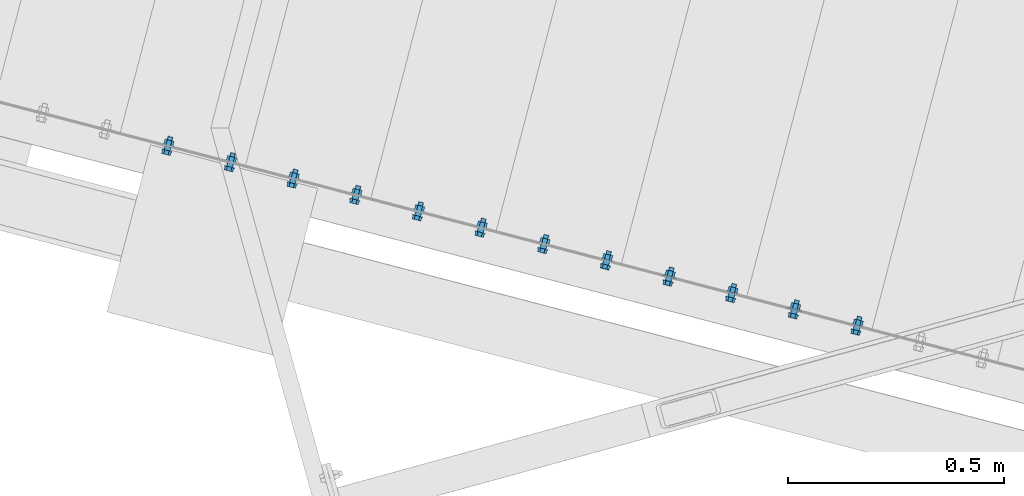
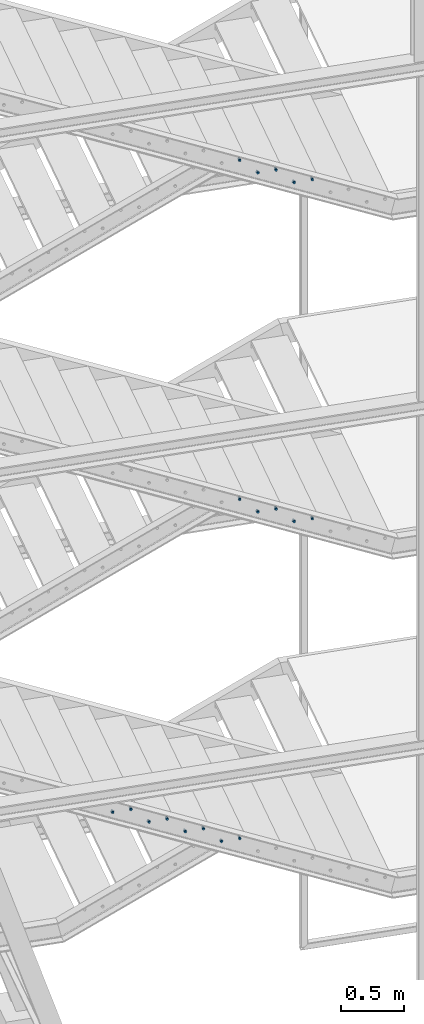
# One storey, part 137 of 169: 18 mechanical fasteners, 10 elements without a shape of their own.
"""IFC2X3 building model written with IfcOpenShell, lengths in millimetres."""

from ifc_helpers import new_model, si_unit, frame, frame_2d, origin_with_axes, origin_2d_with_axis, place, context, subcontext, project, spatial, polyline, circle_curve, parameter, trimmed, segment, composite_curve, circle, outline, extrude, source, transform, mapped, material, type_object, element, aggregate, save


model = new_model("IFC2X3")

# Units and contexts
model_context = context("Model", 3, precision=1e-05, world=origin_with_axes())
body_context = subcontext(model_context, "Body", "Model", "MODEL_VIEW")
ifc_project = project(units=[si_unit("LENGTHUNIT", "METRE", prefix="MILLI"), si_unit("AREAUNIT", "SQUARE_METRE"), si_unit("VOLUMEUNIT", "CUBIC_METRE"), si_unit("MASSUNIT", "GRAM", prefix="KILO"), si_unit("TIMEUNIT", "SECOND"), si_unit("PLANEANGLEUNIT", "RADIAN"), si_unit("SOLIDANGLEUNIT", "STERADIAN"), si_unit("THERMODYNAMICTEMPERATUREUNIT", "DEGREE_CELSIUS"), si_unit("LUMINOUSINTENSITYUNIT", "LUMEN")], contexts=[model_context])

# Site, building, storey
site_placement = place(None, origin_with_axes())
site = spatial("IfcSite", under=ifc_project, at=site_placement, Name="Undefined", CompositionType="ELEMENT")
building_placement = place(site_placement, origin_with_axes())
building = spatial("IfcBuilding", under=site, at=building_placement, Name="Undefined", CompositionType="ELEMENT")
storey_placement = place(building_placement, origin_with_axes())
storey = spatial("IfcBuildingStorey", under=building, at=storey_placement, Name="Undefined", CompositionType="ELEMENT", Elevation=0.0)

# Assembly, mechanical fastener
assembly_1_placement = place(storey_placement, origin_with_axes())
assembly_1 = element("IfcElementAssembly", 1, at=assembly_1_placement, inside=storey, Name="Steel Assembly", AssemblyPlace="NOTDEFINED", PredefinedType="RIGID_FRAME")
ifc_material = material(Name="Undefined")
discrete_accessory_type = type_object("IfcDiscreteAccessoryType", Name="Bolt assembly")
shared_shape_1 = source(origin_with_axes(), body_context, "Body", "SweptSolid", [
    extrude(circle(Radius=7.5, at=origin_2d_with_axis()), frame((0.0, -8.39999975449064, 0.0), z_axis=(0.0, 1.0, 0.0), x_axis=(1.0, 0.0, 0.0)), (0.0, 0.0, 1.0), 8.5),
    extrude(circle(Radius=7.5, at=origin_2d_with_axis()), frame((0.0, -0.100000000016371, 0.0), z_axis=(0.0, 1.0, 0.0), x_axis=(1.0, 0.0, 0.0)), (0.0, 0.0, 1.0), 3.1),
    extrude(outline(polyline([(10.39230484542, 0.0), (5.19615242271, 9.00000000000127), (-5.19615242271, 9.00000000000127), (-10.39230484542, 0.0), (-5.19615242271, -9.00000000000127), (5.19615242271, -9.00000000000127), (10.39230484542, 0.0)])), frame((0.0, -18.4999993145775, 0.0), z_axis=(0.0, 1.0, 0.0), x_axis=(1.0, 0.0, 0.0)), (0.0, 0.0, 1.0), 7.5),
    extrude(circle(Radius=6.0, at=origin_2d_with_axis()), frame((0.0, -10.9999999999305, 0.0), z_axis=(0.0, 1.0, 0.0), x_axis=(1.0, 0.0, 0.0)), (0.0, 0.0, 1.0), 35.0),
    extrude(circle(Radius=12.0, at=origin_2d_with_axis()), frame((0.0, -10.9999999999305, 0.0), z_axis=(0.0, 1.0, 0.0), x_axis=(1.0, 0.0, 0.0)), (0.0, 0.0, 1.0), 2.5),
    extrude(circle(Radius=12.0, at=origin_2d_with_axis()), frame((0.0, 2.99999999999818, 0.0), z_axis=(0.0, 1.0, 0.0), x_axis=(1.0, 0.0, 0.0)), (0.0, 0.0, 1.0), 2.5),
    extrude(outline(polyline([(10.96965511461, 0.0), (5.484827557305, 9.50000000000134), (-5.484827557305, 9.50000000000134), (-10.96965511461, 0.0), (-5.484827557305, -9.50000000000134), (5.484827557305, -9.50000000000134), (10.96965511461, 0.0)])), frame((0.0, 5.50000000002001, 0.0), z_axis=(0.0, 1.0, 0.0), x_axis=(1.0, 0.0, 0.0)), (0.0, 0.0, 1.0), 10.0),
])
mechanical_fastener_1_placement = place(assembly_1_placement, frame((-26304.5177435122, 5282.78361896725, 11300.321582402), z_axis=(-2.54700353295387e-10, 0.0, -1.0), x_axis=(-0.967546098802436, 0.252694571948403, 0.0)))
mechanical_fastener_1 = element("IfcMechanicalFastener", 2, at=mechanical_fastener_1_placement, type_object=discrete_accessory_type, material=ifc_material, Name="Bolt assembly", NominalDiameter=12.0, NominalLength=35.0, context=body_context, shape_type="MappedRepresentation", body=[
    mapped(shared_shape_1, transform((35.0000000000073, -1.23691279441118e-10, 25.0))),
])
aggregate(assembly_1, [mechanical_fastener_1])

assembly_2_placement = place(storey_placement, origin_with_axes())
assembly_2 = element("IfcElementAssembly", 3, at=assembly_2_placement, inside=storey, Name="Steel Assembly", AssemblyPlace="NOTDEFINED", PredefinedType="RIGID_FRAME")
mechanical_fastener_2_placement = place(assembly_2_placement, frame((-26014.2539104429, 5206.9752466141, 11150.3215824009), z_axis=(-2.54700353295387e-10, 0.0, -1.0), x_axis=(-0.967546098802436, 0.252694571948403, 0.0)))
mechanical_fastener_2 = element("IfcMechanicalFastener", 4, at=mechanical_fastener_2_placement, type_object=discrete_accessory_type, material=ifc_material, Name="Bolt assembly", NominalDiameter=12.0, NominalLength=35.0, context=body_context, shape_type="MappedRepresentation", body=[
    mapped(shared_shape_1, transform((35.0000000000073, -1.23691279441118e-10, 25.0))),
])

assembly_3_placement = place(storey_placement, origin_with_axes())
assembly_3 = element("IfcElementAssembly", 5, at=assembly_3_placement, inside=storey, Name="Steel Assembly", AssemblyPlace="NOTDEFINED", PredefinedType="RIGID_FRAME")
mechanical_fastener_3_placement = place(assembly_3_placement, frame((-25723.9900773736, 5131.16687426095, 11000.3215823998), z_axis=(-2.54700353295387e-10, 0.0, -1.0), x_axis=(-0.967546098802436, 0.252694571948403, 0.0)))
mechanical_fastener_3 = element("IfcMechanicalFastener", 6, at=mechanical_fastener_3_placement, type_object=discrete_accessory_type, material=ifc_material, Name="Bolt assembly", NominalDiameter=12.0, NominalLength=35.0, context=body_context, shape_type="MappedRepresentation", body=[
    mapped(shared_shape_1, transform((35.0000000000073, -1.23691279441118e-10, 25.0))),
])

assembly_4_placement = place(storey_placement, origin_with_axes())
assembly_4 = element("IfcElementAssembly", 7, at=assembly_4_placement, inside=storey, Name="Steel Assembly", AssemblyPlace="NOTDEFINED", PredefinedType="RIGID_FRAME")
mechanical_fastener_4_placement = place(assembly_4_placement, frame((-26304.6318208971, 5282.34670399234, 8000.32161330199), z_axis=(-2.54700353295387e-10, 0.0, -1.0), x_axis=(-0.967546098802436, 0.252694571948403, 0.0)))
mechanical_fastener_4 = element("IfcMechanicalFastener", 8, at=mechanical_fastener_4_placement, type_object=discrete_accessory_type, material=ifc_material, Name="Bolt assembly", NominalDiameter=12.0, NominalLength=35.0, context=body_context, shape_type="MappedRepresentation", body=[
    mapped(shared_shape_1, transform((35.0000000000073, -1.23691279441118e-10, 25.0))),
])
aggregate(assembly_4, [mechanical_fastener_4])

assembly_5_placement = place(storey_placement, origin_with_axes())
assembly_5 = element("IfcElementAssembly", 9, at=assembly_5_placement, inside=storey, Name="Steel Assembly", AssemblyPlace="NOTDEFINED", PredefinedType="RIGID_FRAME")
mechanical_fastener_5_placement = place(assembly_5_placement, frame((-26014.3679878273, 5206.53833163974, 7850.32161330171), z_axis=(-2.54700353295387e-10, 0.0, -1.0), x_axis=(-0.967546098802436, 0.252694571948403, 0.0)))
mechanical_fastener_5 = element("IfcMechanicalFastener", 10, at=mechanical_fastener_5_placement, type_object=discrete_accessory_type, material=ifc_material, Name="Bolt assembly", NominalDiameter=12.0, NominalLength=35.0, context=body_context, shape_type="MappedRepresentation", body=[
    mapped(shared_shape_1, transform((35.0000000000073, -1.23691279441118e-10, 25.0))),
])

assembly_6_placement = place(storey_placement, origin_with_axes())
assembly_6 = element("IfcElementAssembly", 11, at=assembly_6_placement, inside=storey, Name="Steel Assembly", AssemblyPlace="NOTDEFINED", PredefinedType="RIGID_FRAME")
mechanical_fastener_6_placement = place(assembly_6_placement, frame((-25724.1041547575, 5130.72995928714, 7700.32161330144), z_axis=(-2.54700353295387e-10, 0.0, -1.0), x_axis=(-0.967546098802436, 0.252694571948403, 0.0)))
mechanical_fastener_6 = element("IfcMechanicalFastener", 12, at=mechanical_fastener_6_placement, type_object=discrete_accessory_type, material=ifc_material, Name="Bolt assembly", NominalDiameter=12.0, NominalLength=35.0, context=body_context, shape_type="MappedRepresentation", body=[
    mapped(shared_shape_1, transform((35.0000000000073, -1.23691279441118e-10, 25.0))),
])

assembly_7_placement = place(storey_placement, origin_with_axes())
assembly_7 = element("IfcElementAssembly", 13, at=assembly_7_placement, inside=storey, Name="Steel Assembly", AssemblyPlace="NOTDEFINED", PredefinedType="RIGID_FRAME")
mechanical_fastener_7_placement = place(assembly_7_placement, frame((-27175.5373975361, 5509.33490613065, 5150.32164420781), z_axis=(-2.54700353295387e-10, 0.0, -1.0), x_axis=(-0.967546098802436, 0.252694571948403, 0.0)))
mechanical_fastener_7 = element("IfcMechanicalFastener", 14, at=mechanical_fastener_7_placement, type_object=discrete_accessory_type, material=ifc_material, Name="Bolt assembly", NominalDiameter=12.0, NominalLength=35.0, context=body_context, shape_type="MappedRepresentation", body=[
    mapped(shared_shape_1, transform((35.0000000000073, -1.23691279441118e-10, 25.0))),
])

assembly_8_placement = place(storey_placement, origin_with_axes())
assembly_8 = element("IfcElementAssembly", 15, at=assembly_8_placement, inside=storey, Name="Steel Assembly", AssemblyPlace="NOTDEFINED", PredefinedType="RIGID_FRAME")
mechanical_fastener_8_placement = place(assembly_8_placement, frame((-26885.2735644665, 5433.52653377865, 5000.32164420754), z_axis=(-2.54700353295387e-10, 0.0, -1.0), x_axis=(-0.967546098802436, 0.252694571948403, 0.0)))
mechanical_fastener_8 = element("IfcMechanicalFastener", 16, at=mechanical_fastener_8_placement, type_object=discrete_accessory_type, material=ifc_material, Name="Bolt assembly", NominalDiameter=12.0, NominalLength=35.0, context=body_context, shape_type="MappedRepresentation", body=[
    mapped(shared_shape_1, transform((35.0000000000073, -1.23691279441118e-10, 25.0))),
])

assembly_9_placement = place(storey_placement, origin_with_axes())
assembly_9 = element("IfcElementAssembly", 17, at=assembly_9_placement, inside=storey, Name="Steel Assembly", AssemblyPlace="NOTDEFINED", PredefinedType="RIGID_FRAME")
mechanical_fastener_9_placement = place(assembly_9_placement, frame((-26595.0097313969, 5357.71816142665, 4850.32164420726), z_axis=(-2.54700353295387e-10, 0.0, -1.0), x_axis=(-0.967546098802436, 0.252694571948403, 0.0)))
mechanical_fastener_9 = element("IfcMechanicalFastener", 18, at=mechanical_fastener_9_placement, type_object=discrete_accessory_type, material=ifc_material, Name="Bolt assembly", NominalDiameter=12.0, NominalLength=35.0, context=body_context, shape_type="MappedRepresentation", body=[
    mapped(shared_shape_1, transform((35.0000000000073, -1.23691279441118e-10, 25.0))),
])

assembly_10_placement = place(storey_placement, origin_with_axes())
assembly_10 = element("IfcElementAssembly", 19, at=assembly_10_placement, inside=storey, Name="Steel Assembly", AssemblyPlace="NOTDEFINED", PredefinedType="RIGID_FRAME")
mechanical_fastener_10_placement = place(assembly_10_placement, frame((-26304.7458983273, 5281.90978907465, 4700.32164420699), z_axis=(-2.54700353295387e-10, 0.0, -1.0), x_axis=(-0.967546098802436, 0.252694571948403, 0.0)))
mechanical_fastener_10 = element("IfcMechanicalFastener", 20, at=mechanical_fastener_10_placement, type_object=discrete_accessory_type, material=ifc_material, Name="Bolt assembly", NominalDiameter=12.0, NominalLength=35.0, context=body_context, shape_type="MappedRepresentation", body=[
    mapped(shared_shape_1, transform((35.0000000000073, -1.23691279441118e-10, 25.0))),
])

# Mechanical fastener
shared_shape_2 = source(origin_with_axes(), body_context, "Body", "SweptSolid", [
    extrude(circle(Radius=7.5, at=origin_2d_with_axis()), frame((0.0, -8.39999975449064, 0.0), z_axis=(0.0, 1.0, 0.0), x_axis=(1.0, 0.0, 0.0)), (0.0, 0.0, 1.0), 8.5),
    extrude(outline(composite_curve([segment(polyline([(-10.0, 7.5), (10.0, 7.5)]), True, "CONTINUOUS"), segment(trimmed(circle_curve(frame_2d((10.0, 0.0), x_axis=(0.0, 1.0)), 7.5), [parameter(0.0)], [parameter(3.14159265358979)], False, "PARAMETER"), True, "CONTINUOUS"), segment(polyline([(10.0, -7.5), (-10.0, -7.5)]), True, "CONTINUOUS"), segment(trimmed(circle_curve(frame_2d((-10.0, 0.0), x_axis=(0.0, -1.0)), 7.5), [parameter(0.0)], [parameter(3.14159265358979)], False, "PARAMETER"), True, "DISCONTINUOUS")], self_intersect=False)), frame((0.0, -0.100000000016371, 0.0), z_axis=(0.0, 1.0, 0.0), x_axis=(1.0, 0.0, 0.0)), (0.0, 0.0, 1.0), 3.1),
    extrude(outline(polyline([(10.39230484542, 0.0), (5.19615242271, 9.00000000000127), (-5.19615242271, 9.00000000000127), (-10.39230484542, 0.0), (-5.19615242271, -9.00000000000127), (5.19615242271, -9.00000000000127), (10.39230484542, 0.0)])), frame((0.0, -18.4999993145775, 0.0), z_axis=(0.0, 1.0, 0.0), x_axis=(1.0, 0.0, 0.0)), (0.0, 0.0, 1.0), 7.5),
    extrude(circle(Radius=6.0, at=origin_2d_with_axis()), frame((0.0, -10.9999999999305, 0.0), z_axis=(0.0, 1.0, 0.0), x_axis=(1.0, 0.0, 0.0)), (0.0, 0.0, 1.0), 35.0),
    extrude(circle(Radius=12.0, at=origin_2d_with_axis()), frame((0.0, -10.9999999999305, 0.0), z_axis=(0.0, 1.0, 0.0), x_axis=(1.0, 0.0, 0.0)), (0.0, 0.0, 1.0), 2.5),
    extrude(circle(Radius=12.0, at=origin_2d_with_axis()), frame((0.0, 2.99999999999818, 0.0), z_axis=(0.0, 1.0, 0.0), x_axis=(1.0, 0.0, 0.0)), (0.0, 0.0, 1.0), 2.5),
    extrude(outline(polyline([(10.96965511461, 0.0), (5.484827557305, 9.50000000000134), (-5.484827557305, 9.50000000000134), (-10.96965511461, 0.0), (-5.484827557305, -9.50000000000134), (5.484827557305, -9.50000000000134), (10.96965511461, 0.0)])), frame((0.0, 5.50000000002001, 0.0), z_axis=(0.0, 1.0, 0.0), x_axis=(1.0, 0.0, 0.0)), (0.0, 0.0, 1.0), 10.0),
])
mechanical_fastener_11_placement = place(assembly_2_placement, frame((-26014.2539104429, 5206.9752466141, 11150.3215824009), z_axis=(-2.54700353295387e-10, 0.0, -1.0), x_axis=(-0.967546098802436, 0.252694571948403, 0.0)))
mechanical_fastener_11 = element("IfcMechanicalFastener", 21, at=mechanical_fastener_11_placement, type_object=discrete_accessory_type, material=ifc_material, Name="Bolt assembly", NominalDiameter=12.0, NominalLength=35.0, context=body_context, shape_type="MappedRepresentation", body=[
    mapped(shared_shape_2, transform((185.00000000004, -6.51198206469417e-10, 25.0))),
])

aggregate(assembly_2, [mechanical_fastener_11, mechanical_fastener_2])

shared_shape_3 = source(origin_with_axes(), body_context, "Body", "SweptSolid", [
    extrude(circle(Radius=7.5, at=origin_2d_with_axis()), frame((0.0, -8.39999975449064, 0.0), z_axis=(0.0, 1.0, 0.0), x_axis=(1.0, 0.0, 0.0)), (0.0, 0.0, 1.0), 8.5),
    extrude(outline(composite_curve([segment(polyline([(-10.0, 7.5), (10.0, 7.5)]), True, "CONTINUOUS"), segment(trimmed(circle_curve(frame_2d((10.0, 0.0), x_axis=(0.0, 1.0)), 7.5), [parameter(0.0)], [parameter(3.14159265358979)], False, "PARAMETER"), True, "CONTINUOUS"), segment(polyline([(10.0, -7.5), (-10.0, -7.5)]), True, "CONTINUOUS"), segment(trimmed(circle_curve(frame_2d((-10.0, 0.0), x_axis=(0.0, -1.0)), 7.5), [parameter(0.0)], [parameter(3.14159265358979)], False, "PARAMETER"), True, "DISCONTINUOUS")], self_intersect=False)), frame((0.0, -0.100000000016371, 0.0), z_axis=(0.0, 1.0, 0.0), x_axis=(1.0, 0.0, 0.0)), (0.0, 0.0, 1.0), 3.1),
    extrude(outline(polyline([(10.39230484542, 0.0), (5.19615242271, 9.00000000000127), (-5.19615242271, 9.00000000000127), (-10.39230484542, 0.0), (-5.19615242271, -9.00000000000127), (5.19615242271, -9.00000000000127), (10.39230484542, 0.0)])), frame((0.0, -18.4999993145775, 0.0), z_axis=(0.0, 1.0, 0.0), x_axis=(1.0, 0.0, 0.0)), (0.0, 0.0, 1.0), 7.5),
    extrude(circle(Radius=6.0, at=origin_2d_with_axis()), frame((0.0, -10.9999999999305, 0.0), z_axis=(0.0, 1.0, 0.0), x_axis=(1.0, 0.0, 0.0)), (0.0, 0.0, 1.0), 35.0),
    extrude(circle(Radius=12.0, at=origin_2d_with_axis()), frame((0.0, -10.9999999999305, 0.0), z_axis=(0.0, 1.0, 0.0), x_axis=(1.0, 0.0, 0.0)), (0.0, 0.0, 1.0), 2.5),
    extrude(circle(Radius=12.0, at=origin_2d_with_axis()), frame((0.0, 2.99999999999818, 0.0), z_axis=(0.0, 1.0, 0.0), x_axis=(1.0, 0.0, 0.0)), (0.0, 0.0, 1.0), 2.5),
    extrude(outline(polyline([(10.96965511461, 0.0), (5.484827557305, 9.50000000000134), (-5.484827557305, 9.50000000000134), (-10.96965511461, 0.0), (-5.484827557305, -9.50000000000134), (5.484827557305, -9.50000000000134), (10.96965511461, 0.0)])), frame((0.0, 5.50000000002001, 0.0), z_axis=(0.0, 1.0, 0.0), x_axis=(1.0, 0.0, 0.0)), (0.0, 0.0, 1.0), 10.0),
])
mechanical_fastener_12_placement = place(assembly_3_placement, frame((-25723.9900773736, 5131.16687426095, 11000.3215823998), z_axis=(-2.54700353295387e-10, 0.0, -1.0), x_axis=(-0.967546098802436, 0.252694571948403, 0.0)))
mechanical_fastener_12 = element("IfcMechanicalFastener", 22, at=mechanical_fastener_12_placement, type_object=discrete_accessory_type, material=ifc_material, Name="Bolt assembly", NominalDiameter=12.0, NominalLength=35.0, context=body_context, shape_type="MappedRepresentation", body=[
    mapped(shared_shape_3, transform((185.00000000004, -6.51198206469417e-10, 25.0))),
])

aggregate(assembly_3, [mechanical_fastener_12, mechanical_fastener_3])

shared_shape_4 = source(origin_with_axes(), body_context, "Body", "SweptSolid", [
    extrude(circle(Radius=7.5, at=origin_2d_with_axis()), frame((0.0, -8.39999975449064, 0.0), z_axis=(0.0, 1.0, 0.0), x_axis=(1.0, 0.0, 0.0)), (0.0, 0.0, 1.0), 8.5),
    extrude(outline(composite_curve([segment(polyline([(-10.0, 7.5), (10.0, 7.5)]), True, "CONTINUOUS"), segment(trimmed(circle_curve(frame_2d((10.0, 0.0), x_axis=(0.0, 1.0)), 7.5), [parameter(0.0)], [parameter(3.14159265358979)], False, "PARAMETER"), True, "CONTINUOUS"), segment(polyline([(10.0, -7.5), (-10.0, -7.5)]), True, "CONTINUOUS"), segment(trimmed(circle_curve(frame_2d((-10.0, 0.0), x_axis=(0.0, -1.0)), 7.5), [parameter(0.0)], [parameter(3.14159265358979)], False, "PARAMETER"), True, "DISCONTINUOUS")], self_intersect=False)), frame((0.0, -0.100000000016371, 0.0), z_axis=(0.0, 1.0, 0.0), x_axis=(1.0, 0.0, 0.0)), (0.0, 0.0, 1.0), 3.1),
    extrude(outline(polyline([(10.39230484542, 0.0), (5.19615242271, 9.00000000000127), (-5.19615242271, 9.00000000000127), (-10.39230484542, 0.0), (-5.19615242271, -9.00000000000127), (5.19615242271, -9.00000000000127), (10.39230484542, 0.0)])), frame((0.0, -18.4999993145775, 0.0), z_axis=(0.0, 1.0, 0.0), x_axis=(1.0, 0.0, 0.0)), (0.0, 0.0, 1.0), 7.5),
    extrude(circle(Radius=6.0, at=origin_2d_with_axis()), frame((0.0, -10.9999999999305, 0.0), z_axis=(0.0, 1.0, 0.0), x_axis=(1.0, 0.0, 0.0)), (0.0, 0.0, 1.0), 35.0),
    extrude(circle(Radius=12.0, at=origin_2d_with_axis()), frame((0.0, -10.9999999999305, 0.0), z_axis=(0.0, 1.0, 0.0), x_axis=(1.0, 0.0, 0.0)), (0.0, 0.0, 1.0), 2.5),
    extrude(circle(Radius=12.0, at=origin_2d_with_axis()), frame((0.0, 2.99999999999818, 0.0), z_axis=(0.0, 1.0, 0.0), x_axis=(1.0, 0.0, 0.0)), (0.0, 0.0, 1.0), 2.5),
    extrude(outline(polyline([(10.96965511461, 0.0), (5.484827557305, 9.50000000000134), (-5.484827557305, 9.50000000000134), (-10.96965511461, 0.0), (-5.484827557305, -9.50000000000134), (5.484827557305, -9.50000000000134), (10.96965511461, 0.0)])), frame((0.0, 5.50000000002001, 0.0), z_axis=(0.0, 1.0, 0.0), x_axis=(1.0, 0.0, 0.0)), (0.0, 0.0, 1.0), 10.0),
])
mechanical_fastener_13_placement = place(assembly_5_placement, frame((-26014.3679878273, 5206.53833163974, 7850.32161330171), z_axis=(-2.54700353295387e-10, 0.0, -1.0), x_axis=(-0.967546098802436, 0.252694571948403, 0.0)))
mechanical_fastener_13 = element("IfcMechanicalFastener", 23, at=mechanical_fastener_13_placement, type_object=discrete_accessory_type, material=ifc_material, Name="Bolt assembly", NominalDiameter=12.0, NominalLength=35.0, context=body_context, shape_type="MappedRepresentation", body=[
    mapped(shared_shape_4, transform((185.00000000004, -6.51198206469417e-10, 25.0))),
])

aggregate(assembly_5, [mechanical_fastener_13, mechanical_fastener_5])

shared_shape_5 = source(origin_with_axes(), body_context, "Body", "SweptSolid", [
    extrude(circle(Radius=7.5, at=origin_2d_with_axis()), frame((0.0, -8.39999975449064, 0.0), z_axis=(0.0, 1.0, 0.0), x_axis=(1.0, 0.0, 0.0)), (0.0, 0.0, 1.0), 8.5),
    extrude(outline(composite_curve([segment(polyline([(-10.0, 7.5), (10.0, 7.5)]), True, "CONTINUOUS"), segment(trimmed(circle_curve(frame_2d((10.0, 0.0), x_axis=(0.0, 1.0)), 7.5), [parameter(0.0)], [parameter(3.14159265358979)], False, "PARAMETER"), True, "CONTINUOUS"), segment(polyline([(10.0, -7.5), (-10.0, -7.5)]), True, "CONTINUOUS"), segment(trimmed(circle_curve(frame_2d((-10.0, 0.0), x_axis=(0.0, -1.0)), 7.5), [parameter(0.0)], [parameter(3.14159265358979)], False, "PARAMETER"), True, "DISCONTINUOUS")], self_intersect=False)), frame((0.0, -0.100000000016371, 0.0), z_axis=(0.0, 1.0, 0.0), x_axis=(1.0, 0.0, 0.0)), (0.0, 0.0, 1.0), 3.1),
    extrude(outline(polyline([(10.39230484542, 0.0), (5.19615242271, 9.00000000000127), (-5.19615242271, 9.00000000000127), (-10.39230484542, 0.0), (-5.19615242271, -9.00000000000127), (5.19615242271, -9.00000000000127), (10.39230484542, 0.0)])), frame((0.0, -18.4999993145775, 0.0), z_axis=(0.0, 1.0, 0.0), x_axis=(1.0, 0.0, 0.0)), (0.0, 0.0, 1.0), 7.5),
    extrude(circle(Radius=6.0, at=origin_2d_with_axis()), frame((0.0, -10.9999999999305, 0.0), z_axis=(0.0, 1.0, 0.0), x_axis=(1.0, 0.0, 0.0)), (0.0, 0.0, 1.0), 35.0),
    extrude(circle(Radius=12.0, at=origin_2d_with_axis()), frame((0.0, -10.9999999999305, 0.0), z_axis=(0.0, 1.0, 0.0), x_axis=(1.0, 0.0, 0.0)), (0.0, 0.0, 1.0), 2.5),
    extrude(circle(Radius=12.0, at=origin_2d_with_axis()), frame((0.0, 2.99999999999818, 0.0), z_axis=(0.0, 1.0, 0.0), x_axis=(1.0, 0.0, 0.0)), (0.0, 0.0, 1.0), 2.5),
    extrude(outline(polyline([(10.96965511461, 0.0), (5.484827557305, 9.50000000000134), (-5.484827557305, 9.50000000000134), (-10.96965511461, 0.0), (-5.484827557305, -9.50000000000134), (5.484827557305, -9.50000000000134), (10.96965511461, 0.0)])), frame((0.0, 5.50000000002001, 0.0), z_axis=(0.0, 1.0, 0.0), x_axis=(1.0, 0.0, 0.0)), (0.0, 0.0, 1.0), 10.0),
])
mechanical_fastener_14_placement = place(assembly_6_placement, frame((-25724.1041547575, 5130.72995928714, 7700.32161330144), z_axis=(-2.54700353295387e-10, 0.0, -1.0), x_axis=(-0.967546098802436, 0.252694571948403, 0.0)))
mechanical_fastener_14 = element("IfcMechanicalFastener", 24, at=mechanical_fastener_14_placement, type_object=discrete_accessory_type, material=ifc_material, Name="Bolt assembly", NominalDiameter=12.0, NominalLength=35.0, context=body_context, shape_type="MappedRepresentation", body=[
    mapped(shared_shape_5, transform((185.00000000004, -6.51198206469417e-10, 25.0))),
])

aggregate(assembly_6, [mechanical_fastener_14, mechanical_fastener_6])

shared_shape_6 = source(origin_with_axes(), body_context, "Body", "SweptSolid", [
    extrude(circle(Radius=7.5, at=origin_2d_with_axis()), frame((0.0, -8.39999975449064, 0.0), z_axis=(0.0, 1.0, 0.0), x_axis=(1.0, 0.0, 0.0)), (0.0, 0.0, 1.0), 8.5),
    extrude(outline(composite_curve([segment(polyline([(-10.0, 7.5), (10.0, 7.5)]), True, "CONTINUOUS"), segment(trimmed(circle_curve(frame_2d((10.0, 0.0), x_axis=(0.0, 1.0)), 7.5), [parameter(0.0)], [parameter(3.14159265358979)], False, "PARAMETER"), True, "CONTINUOUS"), segment(polyline([(10.0, -7.5), (-10.0, -7.5)]), True, "CONTINUOUS"), segment(trimmed(circle_curve(frame_2d((-10.0, 0.0), x_axis=(0.0, -1.0)), 7.5), [parameter(0.0)], [parameter(3.14159265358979)], False, "PARAMETER"), True, "DISCONTINUOUS")], self_intersect=False)), frame((0.0, -0.100000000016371, 0.0), z_axis=(0.0, 1.0, 0.0), x_axis=(1.0, 0.0, 0.0)), (0.0, 0.0, 1.0), 3.1),
    extrude(outline(polyline([(10.39230484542, 0.0), (5.19615242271, 9.00000000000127), (-5.19615242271, 9.00000000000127), (-10.39230484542, 0.0), (-5.19615242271, -9.00000000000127), (5.19615242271, -9.00000000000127), (10.39230484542, 0.0)])), frame((0.0, -18.4999993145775, 0.0), z_axis=(0.0, 1.0, 0.0), x_axis=(1.0, 0.0, 0.0)), (0.0, 0.0, 1.0), 7.5),
    extrude(circle(Radius=6.0, at=origin_2d_with_axis()), frame((0.0, -10.9999999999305, 0.0), z_axis=(0.0, 1.0, 0.0), x_axis=(1.0, 0.0, 0.0)), (0.0, 0.0, 1.0), 35.0),
    extrude(circle(Radius=12.0, at=origin_2d_with_axis()), frame((0.0, -10.9999999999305, 0.0), z_axis=(0.0, 1.0, 0.0), x_axis=(1.0, 0.0, 0.0)), (0.0, 0.0, 1.0), 2.5),
    extrude(circle(Radius=12.0, at=origin_2d_with_axis()), frame((0.0, 2.99999999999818, 0.0), z_axis=(0.0, 1.0, 0.0), x_axis=(1.0, 0.0, 0.0)), (0.0, 0.0, 1.0), 2.5),
    extrude(outline(polyline([(10.96965511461, 0.0), (5.484827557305, 9.50000000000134), (-5.484827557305, 9.50000000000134), (-10.96965511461, 0.0), (-5.484827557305, -9.50000000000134), (5.484827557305, -9.50000000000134), (10.96965511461, 0.0)])), frame((0.0, 5.50000000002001, 0.0), z_axis=(0.0, 1.0, 0.0), x_axis=(1.0, 0.0, 0.0)), (0.0, 0.0, 1.0), 10.0),
])
mechanical_fastener_15_placement = place(assembly_7_placement, frame((-27175.5373975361, 5509.33490613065, 5150.32164420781), z_axis=(-2.54700353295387e-10, 0.0, -1.0), x_axis=(-0.967546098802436, 0.252694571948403, 0.0)))
mechanical_fastener_15 = element("IfcMechanicalFastener", 25, at=mechanical_fastener_15_placement, type_object=discrete_accessory_type, material=ifc_material, Name="Bolt assembly", NominalDiameter=12.0, NominalLength=35.0, context=body_context, shape_type="MappedRepresentation", body=[
    mapped(shared_shape_6, transform((185.00000000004, -6.51198206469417e-10, 25.0))),
])

aggregate(assembly_7, [mechanical_fastener_15, mechanical_fastener_7])

shared_shape_7 = source(origin_with_axes(), body_context, "Body", "SweptSolid", [
    extrude(circle(Radius=7.5, at=origin_2d_with_axis()), frame((0.0, -8.39999975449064, 0.0), z_axis=(0.0, 1.0, 0.0), x_axis=(1.0, 0.0, 0.0)), (0.0, 0.0, 1.0), 8.5),
    extrude(outline(composite_curve([segment(polyline([(-10.0, 7.5), (10.0, 7.5)]), True, "CONTINUOUS"), segment(trimmed(circle_curve(frame_2d((10.0, 0.0), x_axis=(0.0, 1.0)), 7.5), [parameter(0.0)], [parameter(3.14159265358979)], False, "PARAMETER"), True, "CONTINUOUS"), segment(polyline([(10.0, -7.5), (-10.0, -7.5)]), True, "CONTINUOUS"), segment(trimmed(circle_curve(frame_2d((-10.0, 0.0), x_axis=(0.0, -1.0)), 7.5), [parameter(0.0)], [parameter(3.14159265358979)], False, "PARAMETER"), True, "DISCONTINUOUS")], self_intersect=False)), frame((0.0, -0.100000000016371, 0.0), z_axis=(0.0, 1.0, 0.0), x_axis=(1.0, 0.0, 0.0)), (0.0, 0.0, 1.0), 3.1),
    extrude(outline(polyline([(10.39230484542, 0.0), (5.19615242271, 9.00000000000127), (-5.19615242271, 9.00000000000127), (-10.39230484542, 0.0), (-5.19615242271, -9.00000000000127), (5.19615242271, -9.00000000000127), (10.39230484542, 0.0)])), frame((0.0, -18.4999993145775, 0.0), z_axis=(0.0, 1.0, 0.0), x_axis=(1.0, 0.0, 0.0)), (0.0, 0.0, 1.0), 7.5),
    extrude(circle(Radius=6.0, at=origin_2d_with_axis()), frame((0.0, -10.9999999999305, 0.0), z_axis=(0.0, 1.0, 0.0), x_axis=(1.0, 0.0, 0.0)), (0.0, 0.0, 1.0), 35.0),
    extrude(circle(Radius=12.0, at=origin_2d_with_axis()), frame((0.0, -10.9999999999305, 0.0), z_axis=(0.0, 1.0, 0.0), x_axis=(1.0, 0.0, 0.0)), (0.0, 0.0, 1.0), 2.5),
    extrude(circle(Radius=12.0, at=origin_2d_with_axis()), frame((0.0, 2.99999999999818, 0.0), z_axis=(0.0, 1.0, 0.0), x_axis=(1.0, 0.0, 0.0)), (0.0, 0.0, 1.0), 2.5),
    extrude(outline(polyline([(10.96965511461, 0.0), (5.484827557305, 9.50000000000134), (-5.484827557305, 9.50000000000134), (-10.96965511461, 0.0), (-5.484827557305, -9.50000000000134), (5.484827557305, -9.50000000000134), (10.96965511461, 0.0)])), frame((0.0, 5.50000000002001, 0.0), z_axis=(0.0, 1.0, 0.0), x_axis=(1.0, 0.0, 0.0)), (0.0, 0.0, 1.0), 10.0),
])
mechanical_fastener_16_placement = place(assembly_8_placement, frame((-26885.2735644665, 5433.52653377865, 5000.32164420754), z_axis=(-2.54700353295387e-10, 0.0, -1.0), x_axis=(-0.967546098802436, 0.252694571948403, 0.0)))
mechanical_fastener_16 = element("IfcMechanicalFastener", 26, at=mechanical_fastener_16_placement, type_object=discrete_accessory_type, material=ifc_material, Name="Bolt assembly", NominalDiameter=12.0, NominalLength=35.0, context=body_context, shape_type="MappedRepresentation", body=[
    mapped(shared_shape_7, transform((185.00000000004, -6.51198206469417e-10, 25.0))),
])

aggregate(assembly_8, [mechanical_fastener_16, mechanical_fastener_8])

shared_shape_8 = source(origin_with_axes(), body_context, "Body", "SweptSolid", [
    extrude(circle(Radius=7.5, at=origin_2d_with_axis()), frame((0.0, -8.39999975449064, 0.0), z_axis=(0.0, 1.0, 0.0), x_axis=(1.0, 0.0, 0.0)), (0.0, 0.0, 1.0), 8.5),
    extrude(outline(composite_curve([segment(polyline([(-10.0, 7.5), (10.0, 7.5)]), True, "CONTINUOUS"), segment(trimmed(circle_curve(frame_2d((10.0, 0.0), x_axis=(0.0, 1.0)), 7.5), [parameter(0.0)], [parameter(3.14159265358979)], False, "PARAMETER"), True, "CONTINUOUS"), segment(polyline([(10.0, -7.5), (-10.0, -7.5)]), True, "CONTINUOUS"), segment(trimmed(circle_curve(frame_2d((-10.0, 0.0), x_axis=(0.0, -1.0)), 7.5), [parameter(0.0)], [parameter(3.14159265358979)], False, "PARAMETER"), True, "DISCONTINUOUS")], self_intersect=False)), frame((0.0, -0.100000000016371, 0.0), z_axis=(0.0, 1.0, 0.0), x_axis=(1.0, 0.0, 0.0)), (0.0, 0.0, 1.0), 3.1),
    extrude(outline(polyline([(10.39230484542, 0.0), (5.19615242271, 9.00000000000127), (-5.19615242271, 9.00000000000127), (-10.39230484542, 0.0), (-5.19615242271, -9.00000000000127), (5.19615242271, -9.00000000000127), (10.39230484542, 0.0)])), frame((0.0, -18.4999993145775, 0.0), z_axis=(0.0, 1.0, 0.0), x_axis=(1.0, 0.0, 0.0)), (0.0, 0.0, 1.0), 7.5),
    extrude(circle(Radius=6.0, at=origin_2d_with_axis()), frame((0.0, -10.9999999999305, 0.0), z_axis=(0.0, 1.0, 0.0), x_axis=(1.0, 0.0, 0.0)), (0.0, 0.0, 1.0), 35.0),
    extrude(circle(Radius=12.0, at=origin_2d_with_axis()), frame((0.0, -10.9999999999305, 0.0), z_axis=(0.0, 1.0, 0.0), x_axis=(1.0, 0.0, 0.0)), (0.0, 0.0, 1.0), 2.5),
    extrude(circle(Radius=12.0, at=origin_2d_with_axis()), frame((0.0, 2.99999999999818, 0.0), z_axis=(0.0, 1.0, 0.0), x_axis=(1.0, 0.0, 0.0)), (0.0, 0.0, 1.0), 2.5),
    extrude(outline(polyline([(10.96965511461, 0.0), (5.484827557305, 9.50000000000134), (-5.484827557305, 9.50000000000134), (-10.96965511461, 0.0), (-5.484827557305, -9.50000000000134), (5.484827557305, -9.50000000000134), (10.96965511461, 0.0)])), frame((0.0, 5.50000000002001, 0.0), z_axis=(0.0, 1.0, 0.0), x_axis=(1.0, 0.0, 0.0)), (0.0, 0.0, 1.0), 10.0),
])
mechanical_fastener_17_placement = place(assembly_9_placement, frame((-26595.0097313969, 5357.71816142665, 4850.32164420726), z_axis=(-2.54700353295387e-10, 0.0, -1.0), x_axis=(-0.967546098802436, 0.252694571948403, 0.0)))
mechanical_fastener_17 = element("IfcMechanicalFastener", 27, at=mechanical_fastener_17_placement, type_object=discrete_accessory_type, material=ifc_material, Name="Bolt assembly", NominalDiameter=12.0, NominalLength=35.0, context=body_context, shape_type="MappedRepresentation", body=[
    mapped(shared_shape_8, transform((185.00000000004, -6.51198206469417e-10, 25.0))),
])

aggregate(assembly_9, [mechanical_fastener_17, mechanical_fastener_9])

shared_shape_9 = source(origin_with_axes(), body_context, "Body", "SweptSolid", [
    extrude(circle(Radius=7.5, at=origin_2d_with_axis()), frame((0.0, -8.39999975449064, 0.0), z_axis=(0.0, 1.0, 0.0), x_axis=(1.0, 0.0, 0.0)), (0.0, 0.0, 1.0), 8.5),
    extrude(outline(composite_curve([segment(polyline([(-10.0, 7.5), (10.0, 7.5)]), True, "CONTINUOUS"), segment(trimmed(circle_curve(frame_2d((10.0, 0.0), x_axis=(0.0, 1.0)), 7.5), [parameter(0.0)], [parameter(3.14159265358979)], False, "PARAMETER"), True, "CONTINUOUS"), segment(polyline([(10.0, -7.5), (-10.0, -7.5)]), True, "CONTINUOUS"), segment(trimmed(circle_curve(frame_2d((-10.0, 0.0), x_axis=(0.0, -1.0)), 7.5), [parameter(0.0)], [parameter(3.14159265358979)], False, "PARAMETER"), True, "DISCONTINUOUS")], self_intersect=False)), frame((0.0, -0.100000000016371, 0.0), z_axis=(0.0, 1.0, 0.0), x_axis=(1.0, 0.0, 0.0)), (0.0, 0.0, 1.0), 3.1),
    extrude(outline(polyline([(10.39230484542, 0.0), (5.19615242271, 9.00000000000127), (-5.19615242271, 9.00000000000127), (-10.39230484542, 0.0), (-5.19615242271, -9.00000000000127), (5.19615242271, -9.00000000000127), (10.39230484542, 0.0)])), frame((0.0, -18.4999993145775, 0.0), z_axis=(0.0, 1.0, 0.0), x_axis=(1.0, 0.0, 0.0)), (0.0, 0.0, 1.0), 7.5),
    extrude(circle(Radius=6.0, at=origin_2d_with_axis()), frame((0.0, -10.9999999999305, 0.0), z_axis=(0.0, 1.0, 0.0), x_axis=(1.0, 0.0, 0.0)), (0.0, 0.0, 1.0), 35.0),
    extrude(circle(Radius=12.0, at=origin_2d_with_axis()), frame((0.0, -10.9999999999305, 0.0), z_axis=(0.0, 1.0, 0.0), x_axis=(1.0, 0.0, 0.0)), (0.0, 0.0, 1.0), 2.5),
    extrude(circle(Radius=12.0, at=origin_2d_with_axis()), frame((0.0, 2.99999999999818, 0.0), z_axis=(0.0, 1.0, 0.0), x_axis=(1.0, 0.0, 0.0)), (0.0, 0.0, 1.0), 2.5),
    extrude(outline(polyline([(10.96965511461, 0.0), (5.484827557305, 9.50000000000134), (-5.484827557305, 9.50000000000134), (-10.96965511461, 0.0), (-5.484827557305, -9.50000000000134), (5.484827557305, -9.50000000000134), (10.96965511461, 0.0)])), frame((0.0, 5.50000000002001, 0.0), z_axis=(0.0, 1.0, 0.0), x_axis=(1.0, 0.0, 0.0)), (0.0, 0.0, 1.0), 10.0),
])
mechanical_fastener_18_placement = place(assembly_10_placement, frame((-26304.7458983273, 5281.90978907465, 4700.32164420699), z_axis=(-2.54700353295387e-10, 0.0, -1.0), x_axis=(-0.967546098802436, 0.252694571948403, 0.0)))
mechanical_fastener_18 = element("IfcMechanicalFastener", 28, at=mechanical_fastener_18_placement, type_object=discrete_accessory_type, material=ifc_material, Name="Bolt assembly", NominalDiameter=12.0, NominalLength=35.0, context=body_context, shape_type="MappedRepresentation", body=[
    mapped(shared_shape_9, transform((185.00000000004, -6.51198206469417e-10, 25.0))),
])

aggregate(assembly_10, [mechanical_fastener_18, mechanical_fastener_10])

save(model, "model.ifc")
